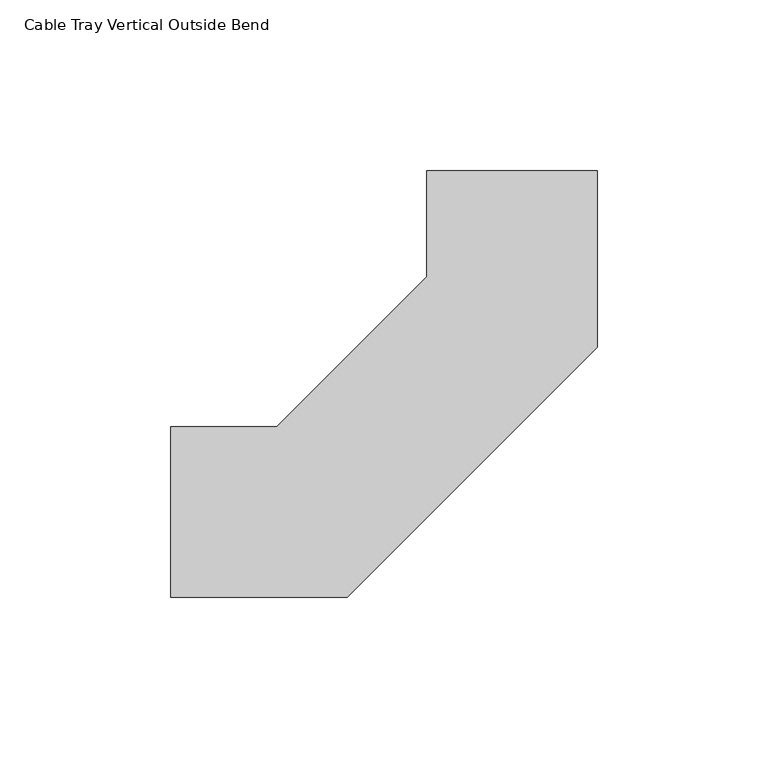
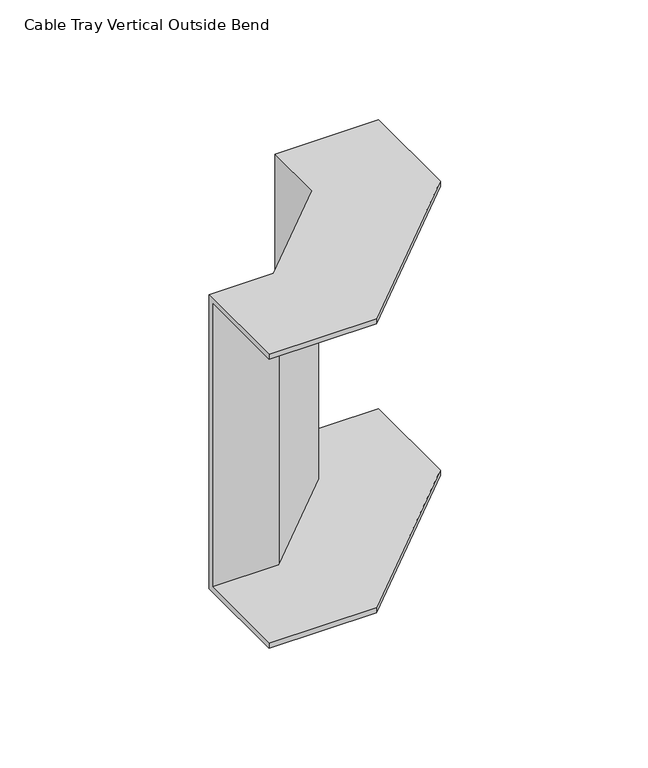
"""IFC4 building model written with IfcOpenShell, lengths in millimetres: cable carrier fitting geometry, Cable Tray Vertical Outside Bend : ELEC_ELV_CT_N2402."""

import ifcopenshell
import ifcopenshell.guid

model = None  # the IFC model being written
_history = None  # IfcOwnerHistory: only IFC2X3 demands one
_inside = {}  # id of a spatial element -> (the spatial element, [elements in it])
_under = {}  # id of a project, library or spatial element -> (it, [spatial elements below it])
_declared = {}  # id of a project -> (the project, [libraries it declares])
_typed = {}  # id of a type object -> (the type object, [elements of that type])
_made_of = {}  # id of a material, layer set ... -> (it, [elements and type objects made of it])


def new_model(schema):
    """Start an empty IFC model of exactly this schema.

    Asked for "IFC4X3", IfcOpenShell would pick the latest addendum, in which some entities
    have other attributes; the version numbers below select the first issue.
    IFC2X3 requires an IfcOwnerHistory on every rooted entity: one is made here for all.
    """
    global model, _history
    if schema == "IFC4X3":
        model = ifcopenshell.file(schema_version=(4, 3, 0, 0))
    else:
        model = ifcopenshell.file(schema=schema)
    _inside.clear()
    _under.clear()
    _declared.clear()
    _typed.clear()
    _made_of.clear()
    _history = None
    if model.schema == "IFC2X3":
        org = make("IfcOrganization", Name="unknown")
        user = make(
            "IfcPersonAndOrganization",
            ThePerson=make("IfcPerson", FamilyName="unknown"),
            TheOrganization=org,
        )
        app = make(
            "IfcApplication",
            ApplicationDeveloper=org,
            Version="unknown",
            ApplicationFullName="unknown",
            ApplicationIdentifier="unknown",
        )
        _history = make(
            "IfcOwnerHistory",
            OwningUser=user,
            OwningApplication=app,
            ChangeAction="ADDED",
            CreationDate=0,
        )
    return model


def make(cls, **values):
    """One entity of the class cls with the attributes given. An attribute that is None is left unset."""
    return model.create_entity(
        cls, **{name: value for name, value in values.items() if value is not None}
    )


def rooted(cls, **values):
    """An entity with a GlobalId (a new one), such as an element, a storey or a relation."""
    return make(cls, GlobalId=ifcopenshell.guid.new(), OwnerHistory=_history, **values)


def si_unit(unit_type, name, prefix=None):
    """IfcSIUnit, for example si_unit("LENGTHUNIT", "METRE", prefix="MILLI")."""
    return make("IfcSIUnit", UnitType=unit_type, Prefix=prefix, Name=name)


def assignment(units):
    """IfcUnitAssignment: the units of a project."""
    return None if units is None else make("IfcUnitAssignment", Units=units)


def point(xyz):
    """IfcCartesianPoint."""
    return None if xyz is None else make("IfcCartesianPoint", Coordinates=xyz)


def direction(xyz):
    """IfcDirection."""
    return None if xyz is None else make("IfcDirection", DirectionRatios=xyz)


def frame(location, z_axis=None, x_axis=None):
    """IfcAxis2Placement3D, a coordinate frame: its origin and axes. An axis left out is left unset."""
    return make(
        "IfcAxis2Placement3D",
        Location=point(location),
        Axis=direction(z_axis),
        RefDirection=direction(x_axis),
    )


def origin():
    """The frame at (0, 0, 0) with its axes left unset."""
    return frame((0.0, 0.0, 0.0))


def place(relative_to, where):
    """IfcLocalPlacement: puts the frame where relative to a parent placement (None: the world)."""
    return make(
        "IfcLocalPlacement", PlacementRelTo=relative_to, RelativePlacement=where
    )


def context(
    kind, dimensions, precision=None, world=None, true_north=None, identifier=None
):
    """IfcGeometricRepresentationContext, for example the 3D "Model" context."""
    return make(
        "IfcGeometricRepresentationContext",
        ContextIdentifier=identifier,
        ContextType=kind,
        CoordinateSpaceDimension=dimensions,
        Precision=precision,
        WorldCoordinateSystem=world,
        TrueNorth=true_north,
    )


def project(units=None, contexts=None):
    """IfcProject with its units and contexts."""
    return rooted(
        "IfcProject",
        Name="project",
        RepresentationContexts=contexts,
        UnitsInContext=assignment(units),
    )


def spatial(cls, under=None, at=None, **own):
    """A site, building, storey or space (cls), placed at a placement, below another one or the project."""
    s = rooted(cls, ObjectPlacement=at, **own)
    if under is not None:
        _under.setdefault(under.id(), (under, []))[1].append(s)
    return s


def faces_of(points, faces, orient=None, outer=None):
    """IfcFace entities. A face is a list of loops; a loop is a list of indices into points, from 0.

    orient and outer hold one flag for each loop. By default every Orientation is true, the
    first loop of a face is its IfcFaceOuterBound and the others are IfcFaceBound.
    """
    made = []
    for i, loops in enumerate(faces):
        bounds = []
        for j, loop in enumerate(loops):
            is_outer = j == 0 if outer is None else outer[i][j]
            bounds.append(
                make(
                    "IfcFaceOuterBound" if is_outer else "IfcFaceBound",
                    Bound=make("IfcPolyLoop", Polygon=[points[k] for k in loop]),
                    Orientation=True if orient is None else orient[i][j],
                )
            )
        made.append(make("IfcFace", Bounds=bounds))
    return made


def faceted_brep(points, faces, orient=None, outer=None, voids=None):
    """IfcFacetedBrep: a solid bounded by flat faces; with voids (closed shells), ...WithVoids."""
    shared = [point(p) for p in points]
    hull = make("IfcClosedShell", CfsFaces=faces_of(shared, faces, orient, outer))
    if voids is None:
        return make("IfcFacetedBrep", Outer=hull)
    return make(
        "IfcFacetedBrepWithVoids",
        Outer=hull,
        Voids=[
            make(cls, CfsFaces=faces_of(shared, fs, o, b)) for cls, fs, o, b in voids
        ],
    )


def shape(context_of_items, identifier, shape_type, items):
    """IfcShapeRepresentation: the items that make up one representation, for example the "Body"."""
    return make(
        "IfcShapeRepresentation",
        ContextOfItems=context_of_items,
        RepresentationIdentifier=identifier,
        RepresentationType=shape_type,
        Items=items,
    )


def source(mapping_origin, context_of_items, identifier, shape_type, items):
    """IfcRepresentationMap: a shape defined once, which mapped items show again and again."""
    return make(
        "IfcRepresentationMap",
        MappingOrigin=mapping_origin,
        MappedRepresentation=shape(context_of_items, identifier, shape_type, items),
    )


def transform(
    local_origin,
    x_axis=None,
    y_axis=None,
    z_axis=None,
    scale=None,
    scale2=None,
    scale3=None,
    uniform=True,
):
    """IfcCartesianTransformationOperator3D, or its non-uniform kind. x_axis, y_axis, z_axis: its Axis1, 2, 3."""
    if uniform:
        return make(
            "IfcCartesianTransformationOperator3D",
            Axis1=direction(x_axis),
            Axis2=direction(y_axis),
            LocalOrigin=point(local_origin),
            Scale=scale,
            Axis3=direction(z_axis),
        )
    return make(
        "IfcCartesianTransformationOperator3DnonUniform",
        Axis1=direction(x_axis),
        Axis2=direction(y_axis),
        LocalOrigin=point(local_origin),
        Scale=scale,
        Axis3=direction(z_axis),
        Scale2=scale2,
        Scale3=scale3,
    )


def mapped(mapping_source, mapping_target):
    """IfcMappedItem: shows the shape of a source again, moved by a transform."""
    return make(
        "IfcMappedItem", MappingSource=mapping_source, MappingTarget=mapping_target
    )


def made_of(thing, what):
    """Note that an element or type object is made of a material, layer set ...; save() writes the relation."""
    if what is not None:
        _made_of.setdefault(what.id(), (what, []))[1].append(thing)
    return thing


def element(
    cls,
    number,
    at=None,
    inside=None,
    cuts=None,
    type_object=None,
    material=None,
    context=None,
    identifier="Body",
    shape_type=None,
    held_by="IfcProductDefinitionShape",
    body=None,
    shapes=None,
    **own,
):
    """One element of the class cls, such as IfcWall. Its Tag is "e" and its number.

    at: its placement. inside: the storey or other place that contains it. cuts: it is an
    opening in that element (IfcRelVoidsElement). A single representation is given by context,
    identifier, shape_type and body (its items); several are given by shapes. held_by: the class
    of the entity that holds the representations. save() writes the other relations.
    """
    e = rooted(cls, Tag="e%d" % number, ObjectPlacement=at, **own)
    if body is not None:
        shapes = [shape(context, identifier, shape_type, body)]
    if shapes is not None:
        e.Representation = make(held_by, Representations=shapes)
    if inside is not None:
        _inside.setdefault(inside.id(), (inside, []))[1].append(e)
    if cuts is not None:
        rooted(
            "IfcRelVoidsElement", RelatingBuildingElement=cuts, RelatedOpeningElement=e
        )
    if type_object is not None:
        _typed.setdefault(type_object.id(), (type_object, []))[1].append(e)
    return made_of(e, material)


def aggregate(whole, parts):
    """IfcRelAggregates: a whole, such as a stair, and the parts it consists of."""
    return rooted("IfcRelAggregates", RelatingObject=whole, RelatedObjects=parts)


def save(model, path):
    """Write the relations noted so far, then the file.

    IfcRelAggregates (storeys below a building ...), IfcRelContainedInSpatialStructure (elements
    in a storey), IfcRelDefinesByType, IfcRelAssociatesMaterial and IfcRelDeclares: one each for
    every whole, place, type object, material and project.
    """
    for whole, parts in _under.values():
        aggregate(whole, parts)
    for where, things in _inside.values():
        rooted(
            "IfcRelContainedInSpatialStructure",
            RelatedElements=things,
            RelatingStructure=where,
        )
    for kind, things in _typed.values():
        rooted("IfcRelDefinesByType", RelatedObjects=things, RelatingType=kind)
    for what, things in _made_of.values():
        rooted("IfcRelAssociatesMaterial", RelatedObjects=things, RelatingMaterial=what)
    for by, libraries in _declared.values():
        rooted("IfcRelDeclares", RelatingContext=by, RelatedDefinitions=libraries)
    model.write(path)


def cable_tray_vertical_outside_bend_bb4ee29d(model_context):
    return source(origin(), model_context, "Body", "Brep", [
        faceted_brep([(-99.9983265, -25.0, 75.0), (-99.9983265, 25.0, 75.0), (-99.9983265, 25.0, -75.0), (-99.9983265, -25.0, -75.0), (-99.9983265, -25.0, -72.46), (-99.9983265, 22.46, -72.46), (-99.9983265, 22.46, 72.46), (-99.9983265, -25.0, 72.46), (25.0016735, 99.997908, 75.0), (25.0016735, 99.997908, 72.46), (-22.4583265, 99.9987023, 72.46), (-22.4583265, 99.9987023, -72.46), (25.0016735, 99.997908, -72.46), (25.0016735, 99.997908, -75.0), (-24.9983265, 99.9987448, -75.0), (-24.9983265, 99.9987448, 75.0), (-48.2222439, -25.0, 75.0), (25.000807, 48.2218255, 75.0), (-24.9988464, 68.9330953, 75.0), (-68.9326769, 25.0, 75.0), (-68.9326769, 25.0, -75.0), (-24.9988464, 68.9330953, -75.0), (25.000807, 48.2218255, -75.0), (-48.2222439, -25.0, -75.0), (-48.2222439, -25.0, -72.46), (25.000807, 48.2218255, -72.46), (-22.458864, 67.8809628, -72.46), (-67.8805869, 22.46, -72.46), (-67.8805869, 22.46, 72.46), (-22.458864, 67.8809628, 72.46), (25.000807, 48.2218255, 72.46), (-48.2222439, -25.0, 72.46)], [[[0, 1, 2, 3, 4, 5, 6, 7]], [[8, 9, 10, 11, 12, 13, 14, 15]], [[1, 0, 16, 17, 8, 15, 18, 19]], [[2, 1, 19, 20]], [[3, 2, 20, 21, 14, 13, 22, 23]], [[4, 3, 23, 24]], [[5, 4, 24, 25, 12, 11, 26, 27]], [[6, 5, 27, 28]], [[7, 6, 28, 29, 10, 9, 30, 31]], [[0, 7, 31, 16]], [[20, 19, 18, 21]], [[24, 23, 22, 25]], [[28, 27, 26, 29]], [[16, 31, 30, 17]], [[21, 18, 15, 14]], [[25, 22, 13, 12]], [[29, 26, 11, 10]], [[17, 30, 9, 8]]]),
    ])


if __name__ == "__main__":
    model = new_model("IFC4")
    model_context = context("Model", 3, world=origin())
    ifc_project = project(units=[si_unit("LENGTHUNIT", "METRE", prefix="MILLI")], contexts=[model_context])
    site = spatial("IfcSite", under=ifc_project)
    building = spatial("IfcBuilding", under=site)
    placement = place(None, origin())
    cable_tray_vertical_outside_bend_shape = cable_tray_vertical_outside_bend_bb4ee29d(model_context)
    element("IfcCableCarrierFitting", 1, ObjectType="Cable Tray Vertical Outside Bend : ELEC_ELV_CT_N2402", at=placement, inside=building, context=model_context, shape_type="MappedRepresentation", body=[
        mapped(cable_tray_vertical_outside_bend_shape, transform((0.0, 0.0, 0.0), x_axis=(1.0, 0.0, 0.0), y_axis=(0.0, 1.0, 0.0), z_axis=(0.0, 0.0, 1.0))),
    ])
    save(model, "model.ifc")
